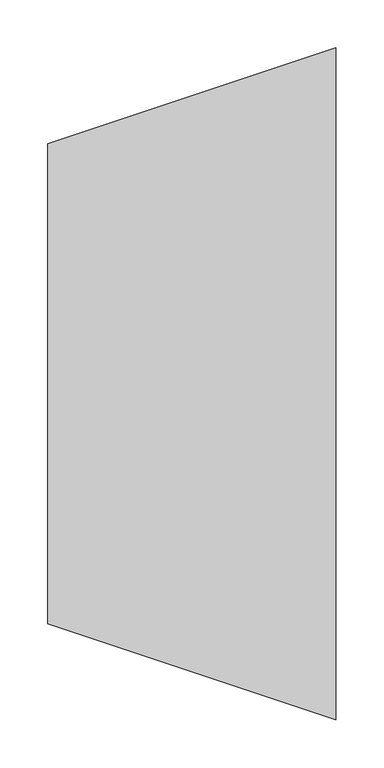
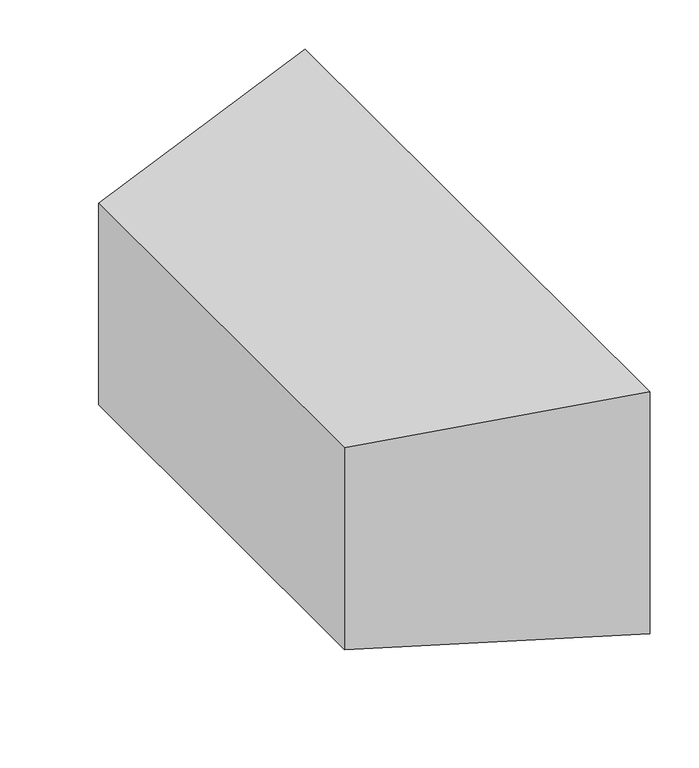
"""IFC4 building model written with IfcOpenShell, lengths in millimetres: duct fitting geometry, ADSK_ПереходникВоздуховодов_Прямоугольный1 : Стандартное 2."""

import ifcopenshell
import ifcopenshell.guid

model = None  # the IFC model being written
_history = None  # IfcOwnerHistory: only IFC2X3 demands one
_inside = {}  # id of a spatial element -> (the spatial element, [elements in it])
_under = {}  # id of a project, library or spatial element -> (it, [spatial elements below it])
_declared = {}  # id of a project -> (the project, [libraries it declares])
_typed = {}  # id of a type object -> (the type object, [elements of that type])
_made_of = {}  # id of a material, layer set ... -> (it, [elements and type objects made of it])


def new_model(schema):
    """Start an empty IFC model of exactly this schema.

    Asked for "IFC4X3", IfcOpenShell would pick the latest addendum, in which some entities
    have other attributes; the version numbers below select the first issue.
    IFC2X3 requires an IfcOwnerHistory on every rooted entity: one is made here for all.
    """
    global model, _history
    if schema == "IFC4X3":
        model = ifcopenshell.file(schema_version=(4, 3, 0, 0))
    else:
        model = ifcopenshell.file(schema=schema)
    _inside.clear()
    _under.clear()
    _declared.clear()
    _typed.clear()
    _made_of.clear()
    _history = None
    if model.schema == "IFC2X3":
        org = make("IfcOrganization", Name="unknown")
        user = make(
            "IfcPersonAndOrganization",
            ThePerson=make("IfcPerson", FamilyName="unknown"),
            TheOrganization=org,
        )
        app = make(
            "IfcApplication",
            ApplicationDeveloper=org,
            Version="unknown",
            ApplicationFullName="unknown",
            ApplicationIdentifier="unknown",
        )
        _history = make(
            "IfcOwnerHistory",
            OwningUser=user,
            OwningApplication=app,
            ChangeAction="ADDED",
            CreationDate=0,
        )
    return model


def make(cls, **values):
    """One entity of the class cls with the attributes given. An attribute that is None is left unset."""
    return model.create_entity(
        cls, **{name: value for name, value in values.items() if value is not None}
    )


def rooted(cls, **values):
    """An entity with a GlobalId (a new one), such as an element, a storey or a relation."""
    return make(cls, GlobalId=ifcopenshell.guid.new(), OwnerHistory=_history, **values)


def si_unit(unit_type, name, prefix=None):
    """IfcSIUnit, for example si_unit("LENGTHUNIT", "METRE", prefix="MILLI")."""
    return make("IfcSIUnit", UnitType=unit_type, Prefix=prefix, Name=name)


def assignment(units):
    """IfcUnitAssignment: the units of a project."""
    return None if units is None else make("IfcUnitAssignment", Units=units)


def point(xyz):
    """IfcCartesianPoint."""
    return None if xyz is None else make("IfcCartesianPoint", Coordinates=xyz)


def direction(xyz):
    """IfcDirection."""
    return None if xyz is None else make("IfcDirection", DirectionRatios=xyz)


def frame(location, z_axis=None, x_axis=None):
    """IfcAxis2Placement3D, a coordinate frame: its origin and axes. An axis left out is left unset."""
    return make(
        "IfcAxis2Placement3D",
        Location=point(location),
        Axis=direction(z_axis),
        RefDirection=direction(x_axis),
    )


def origin():
    """The frame at (0, 0, 0) with its axes left unset."""
    return frame((0.0, 0.0, 0.0))


def place(relative_to, where):
    """IfcLocalPlacement: puts the frame where relative to a parent placement (None: the world)."""
    return make(
        "IfcLocalPlacement", PlacementRelTo=relative_to, RelativePlacement=where
    )


def context(
    kind, dimensions, precision=None, world=None, true_north=None, identifier=None
):
    """IfcGeometricRepresentationContext, for example the 3D "Model" context."""
    return make(
        "IfcGeometricRepresentationContext",
        ContextIdentifier=identifier,
        ContextType=kind,
        CoordinateSpaceDimension=dimensions,
        Precision=precision,
        WorldCoordinateSystem=world,
        TrueNorth=true_north,
    )


def project(units=None, contexts=None):
    """IfcProject with its units and contexts."""
    return rooted(
        "IfcProject",
        Name="project",
        RepresentationContexts=contexts,
        UnitsInContext=assignment(units),
    )


def spatial(cls, under=None, at=None, **own):
    """A site, building, storey or space (cls), placed at a placement, below another one or the project."""
    s = rooted(cls, ObjectPlacement=at, **own)
    if under is not None:
        _under.setdefault(under.id(), (under, []))[1].append(s)
    return s


def faces_of(points, faces, orient=None, outer=None):
    """IfcFace entities. A face is a list of loops; a loop is a list of indices into points, from 0.

    orient and outer hold one flag for each loop. By default every Orientation is true, the
    first loop of a face is its IfcFaceOuterBound and the others are IfcFaceBound.
    """
    made = []
    for i, loops in enumerate(faces):
        bounds = []
        for j, loop in enumerate(loops):
            is_outer = j == 0 if outer is None else outer[i][j]
            bounds.append(
                make(
                    "IfcFaceOuterBound" if is_outer else "IfcFaceBound",
                    Bound=make("IfcPolyLoop", Polygon=[points[k] for k in loop]),
                    Orientation=True if orient is None else orient[i][j],
                )
            )
        made.append(make("IfcFace", Bounds=bounds))
    return made


def faceted_brep(points, faces, orient=None, outer=None, voids=None):
    """IfcFacetedBrep: a solid bounded by flat faces; with voids (closed shells), ...WithVoids."""
    shared = [point(p) for p in points]
    hull = make("IfcClosedShell", CfsFaces=faces_of(shared, faces, orient, outer))
    if voids is None:
        return make("IfcFacetedBrep", Outer=hull)
    return make(
        "IfcFacetedBrepWithVoids",
        Outer=hull,
        Voids=[
            make(cls, CfsFaces=faces_of(shared, fs, o, b)) for cls, fs, o, b in voids
        ],
    )


def shape(context_of_items, identifier, shape_type, items):
    """IfcShapeRepresentation: the items that make up one representation, for example the "Body"."""
    return make(
        "IfcShapeRepresentation",
        ContextOfItems=context_of_items,
        RepresentationIdentifier=identifier,
        RepresentationType=shape_type,
        Items=items,
    )


def source(mapping_origin, context_of_items, identifier, shape_type, items):
    """IfcRepresentationMap: a shape defined once, which mapped items show again and again."""
    return make(
        "IfcRepresentationMap",
        MappingOrigin=mapping_origin,
        MappedRepresentation=shape(context_of_items, identifier, shape_type, items),
    )


def transform(
    local_origin,
    x_axis=None,
    y_axis=None,
    z_axis=None,
    scale=None,
    scale2=None,
    scale3=None,
    uniform=True,
):
    """IfcCartesianTransformationOperator3D, or its non-uniform kind. x_axis, y_axis, z_axis: its Axis1, 2, 3."""
    if uniform:
        return make(
            "IfcCartesianTransformationOperator3D",
            Axis1=direction(x_axis),
            Axis2=direction(y_axis),
            LocalOrigin=point(local_origin),
            Scale=scale,
            Axis3=direction(z_axis),
        )
    return make(
        "IfcCartesianTransformationOperator3DnonUniform",
        Axis1=direction(x_axis),
        Axis2=direction(y_axis),
        LocalOrigin=point(local_origin),
        Scale=scale,
        Axis3=direction(z_axis),
        Scale2=scale2,
        Scale3=scale3,
    )


def mapped(mapping_source, mapping_target):
    """IfcMappedItem: shows the shape of a source again, moved by a transform."""
    return make(
        "IfcMappedItem", MappingSource=mapping_source, MappingTarget=mapping_target
    )


def made_of(thing, what):
    """Note that an element or type object is made of a material, layer set ...; save() writes the relation."""
    if what is not None:
        _made_of.setdefault(what.id(), (what, []))[1].append(thing)
    return thing


def element(
    cls,
    number,
    at=None,
    inside=None,
    cuts=None,
    type_object=None,
    material=None,
    context=None,
    identifier="Body",
    shape_type=None,
    held_by="IfcProductDefinitionShape",
    body=None,
    shapes=None,
    **own,
):
    """One element of the class cls, such as IfcWall. Its Tag is "e" and its number.

    at: its placement. inside: the storey or other place that contains it. cuts: it is an
    opening in that element (IfcRelVoidsElement). A single representation is given by context,
    identifier, shape_type and body (its items); several are given by shapes. held_by: the class
    of the entity that holds the representations. save() writes the other relations.
    """
    e = rooted(cls, Tag="e%d" % number, ObjectPlacement=at, **own)
    if body is not None:
        shapes = [shape(context, identifier, shape_type, body)]
    if shapes is not None:
        e.Representation = make(held_by, Representations=shapes)
    if inside is not None:
        _inside.setdefault(inside.id(), (inside, []))[1].append(e)
    if cuts is not None:
        rooted(
            "IfcRelVoidsElement", RelatingBuildingElement=cuts, RelatedOpeningElement=e
        )
    if type_object is not None:
        _typed.setdefault(type_object.id(), (type_object, []))[1].append(e)
    return made_of(e, material)


def aggregate(whole, parts):
    """IfcRelAggregates: a whole, such as a stair, and the parts it consists of."""
    return rooted("IfcRelAggregates", RelatingObject=whole, RelatedObjects=parts)


def save(model, path):
    """Write the relations noted so far, then the file.

    IfcRelAggregates (storeys below a building ...), IfcRelContainedInSpatialStructure (elements
    in a storey), IfcRelDefinesByType, IfcRelAssociatesMaterial and IfcRelDeclares: one each for
    every whole, place, type object, material and project.
    """
    for whole, parts in _under.values():
        aggregate(whole, parts)
    for where, things in _inside.values():
        rooted(
            "IfcRelContainedInSpatialStructure",
            RelatedElements=things,
            RelatingStructure=where,
        )
    for kind, things in _typed.values():
        rooted("IfcRelDefinesByType", RelatedObjects=things, RelatingType=kind)
    for what, things in _made_of.values():
        rooted("IfcRelAssociatesMaterial", RelatedObjects=things, RelatingMaterial=what)
    for by, libraries in _declared.values():
        rooted("IfcRelDeclares", RelatingContext=by, RelatedDefinitions=libraries)
    model.write(path)


def duct_fitting_e88df740(model_context):
    return source(origin(), model_context, "Body", "Brep", [
        faceted_brep([(300.0, -350.0, 150.0), (300.0, -350.0, -150.0), (300.0, 350.0, -150.0), (300.0, 350.0, 150.0), (0.0, -250.0, 125.0), (0.0, 250.0, 125.0), (0.0, 250.0, -125.0), (0.0, -250.0, -125.0)], [[[0, 1, 2, 3]], [[4, 5, 6, 7]], [[4, 7, 1, 0]], [[7, 6, 2, 1]], [[6, 5, 3, 2]], [[5, 4, 0, 3]]]),
    ])


if __name__ == "__main__":
    model = new_model("IFC4")
    model_context = context("Model", 3, world=origin())
    ifc_project = project(units=[si_unit("LENGTHUNIT", "METRE", prefix="MILLI")], contexts=[model_context])
    site = spatial("IfcSite", under=ifc_project)
    building = spatial("IfcBuilding", under=site)
    placement = place(None, origin())
    duct_fitting_shape = duct_fitting_e88df740(model_context)
    element("IfcDuctFitting", 1, ObjectType="ADSK_ПереходникВоздуховодов_Прямоугольный1 : Стандартное 2", at=placement, inside=building, context=model_context, shape_type="MappedRepresentation", body=[
        mapped(duct_fitting_shape, transform((0.0, 0.0, 0.0), x_axis=(1.0, 0.0, 0.0), y_axis=(0.0, 1.0, 0.0), z_axis=(0.0, 0.0, 1.0))),
    ])
    save(model, "model.ifc")
